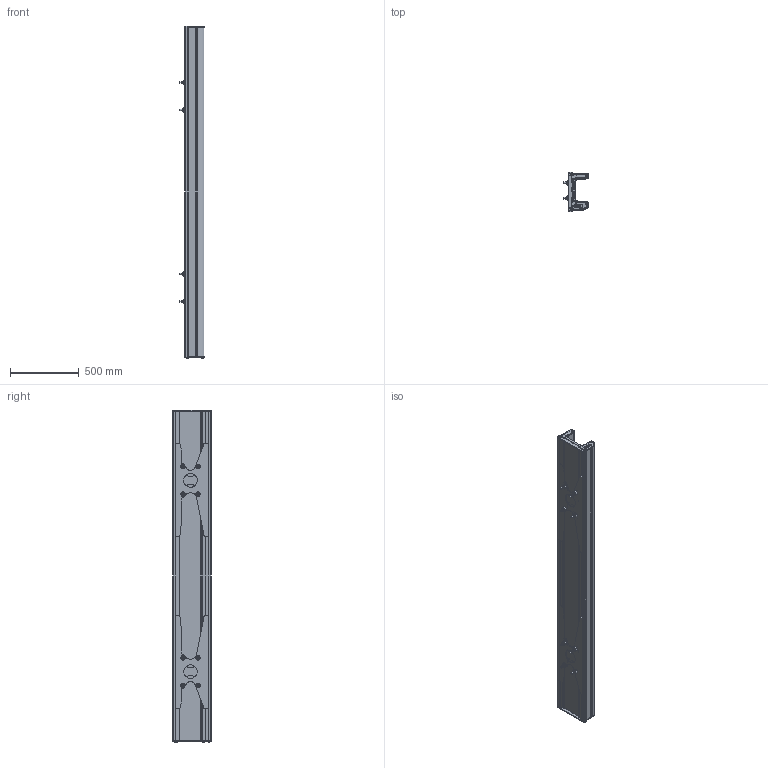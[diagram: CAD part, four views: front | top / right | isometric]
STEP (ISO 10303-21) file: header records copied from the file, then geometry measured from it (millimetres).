
FILE_DESCRIPTION(('CATIA V5 STEP Exchange','CAx-IF Rec.Pracs.--- Model Styling and Organization---1.5--- 2016-08-15','CAx-IF Rec.Pracs.---Supplemental Geometry---1.0---2011-11-01','CAx-IF Rec.Pracs.--- Composite Materials ---1.1---2010-07-15'),'2;1');
FILE_NAME('L:\Florian\data\For Melten\340384-00.stp','2024-01-10T13:17:41+00:00',('none'),('none'),'CATIA Version 5-6 Release 2020 SP3 HF39','CATIA V5 STEP AP203 Edition 2 v2','none');
FILE_SCHEMA(('AP203_CONFIGURATION_CONTROLLED_3D_DESIGN_OF_MECHANICAL_PARTS_AND_ASSEMBLIES_MIM_LF { 1 0 10303 403 3 1 4}'));
Products named in the file (1): 340384-00
Bounding box: 177 x 283.4 x 2412.4 mm (x, y, z)
Volume: 13621949.4 mm3; surface area: 5371390.9 mm2
Topology: 3 solids, 9 shells, 2128 faces, 5818 edges, 3806 vertices
Faces by surface type: cylinder 994, plane 554, cone 298, torus 182, extrusion 72, bspline 28
Entity records: 73922 total; most frequent: CARTESIAN_POINT 23495, ORIENTED_EDGE 11604, DIRECTION 8259, EDGE_CURVE 5802, AXIS2_PLACEMENT_3D 4042, VERTEX_POINT 3806, VECTOR 2299, EDGE_LOOP 2266
